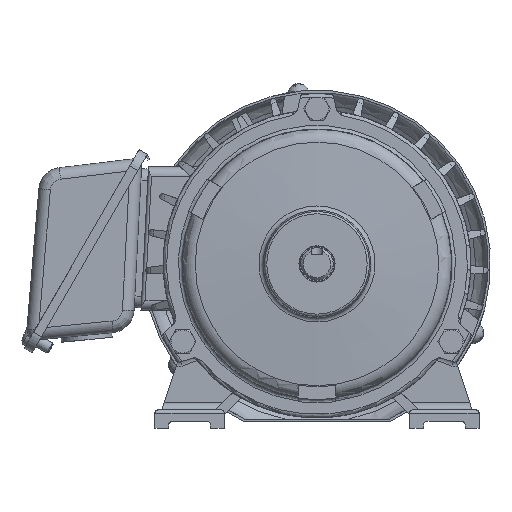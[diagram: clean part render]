
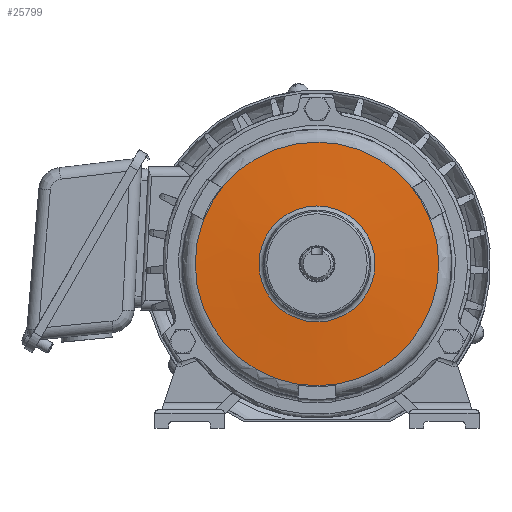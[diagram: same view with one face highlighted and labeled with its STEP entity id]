
A CAD part, front view. The second image highlights one B-rep face of the part: STEP entity #25799.
In plain terms, the highlighted conical face has half-angle 86.139 degrees and reference radius 57.5 mm.
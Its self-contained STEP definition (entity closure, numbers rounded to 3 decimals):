
#250=CONICAL_SURFACE('',#27527,57.5,1.503);
#2102=CIRCLE('',#27528,25.026);
#2103=CIRCLE('',#27529,52.588);
#4726=ORIENTED_EDGE('',*,*,#10870,.T.);
#4727=ORIENTED_EDGE('',*,*,#10871,.T.);
#10870=EDGE_CURVE('',#14092,#14092,#2102,.T.);
#10871=EDGE_CURVE('',#14093,#14093,#2103,.T.);
#14092=VERTEX_POINT('',#42814);
#14093=VERTEX_POINT('',#42816);
#18865=EDGE_LOOP('',(#4726));
#18866=EDGE_LOOP('',(#4727));
#20550=FACE_BOUND('',#18865,.T.);
#20551=FACE_BOUND('',#18866,.T.);
#25799=ADVANCED_FACE('',(#20550,#20551),#250,.T.);
#27527=AXIS2_PLACEMENT_3D('',#42812,#31175,#31176);
#27528=AXIS2_PLACEMENT_3D('',#42813,#31177,#31178);
#27529=AXIS2_PLACEMENT_3D('',#42815,#31179,#31180);
#31175=DIRECTION('',(0.,1.,0.));
#31176=DIRECTION('',(0.,0.,1.));
#31177=DIRECTION('',(0.,1.,0.));
#31178=DIRECTION('',(0.,0.,1.));
#31179=DIRECTION('',(0.,-1.,0.));
#31180=DIRECTION('',(0.,0.,-1.));
#42812=CARTESIAN_POINT('',(0.,7.295,0.));
#42813=CARTESIAN_POINT('',(0.,5.103,0.));
#42814=CARTESIAN_POINT('',(0.,5.103,25.026));
#42815=CARTESIAN_POINT('',(0.,6.963,0.));
#42816=CARTESIAN_POINT('',(0.,6.963,-52.588));
